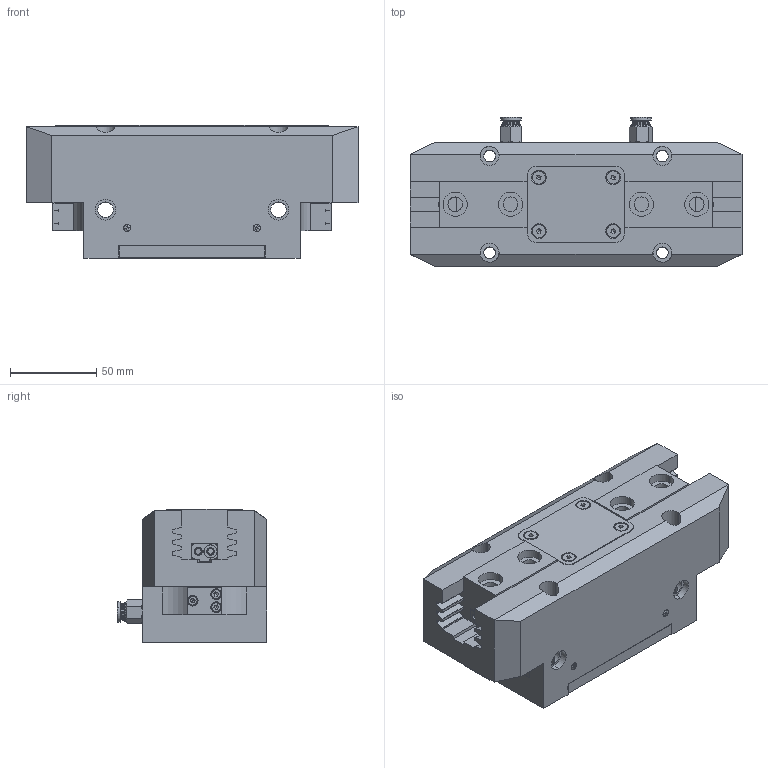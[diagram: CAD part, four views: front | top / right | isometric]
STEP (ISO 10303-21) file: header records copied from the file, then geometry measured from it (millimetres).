
FILE_DESCRIPTION (( 'STEP AP214' ), '1' );
FILE_NAME ('FPT-160B-1×°ÅäÌå2.STEP', '2024-08-29T02:19:06', ( '' ), ( '' ), 'SwSTEP 2.0', 'SolidWorks 2018', '' );
FILE_SCHEMA (( 'AUTOMOTIVE_DESIGN' ));
Length unit declared in the file: millimetre
Products named in the file (1): FPT-160B-1蚾饜极2
Bounding box: 192 x 86.68 x 77.44 mm (x, y, z)
Volume: 810331.4 mm3; surface area: 107487.8 mm2
Topology: 1 solids, 19 shells, 1357 faces, 3472 edges, 2128 vertices
Faces by surface type: plane 656, cylinder 430, cone 221, torus 26, sphere 24
Entity records: 46026 total; most frequent: CARTESIAN_POINT 8620, DIRECTION 7054, ORIENTED_EDGE 6812, EDGE_CURVE 3406, AXIS2_PLACEMENT_3D 2546, VERTEX_POINT 2124, VECTOR 1962, LINE 1962
